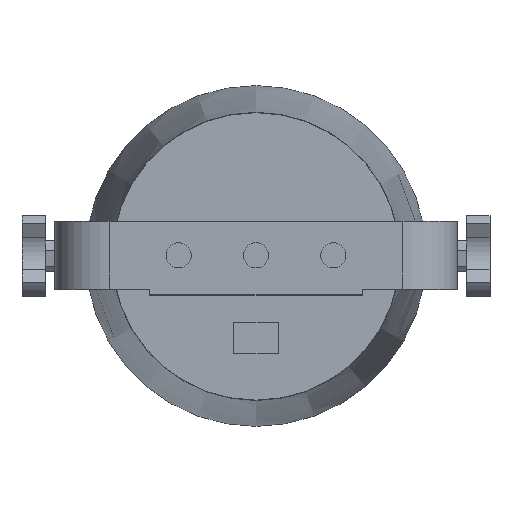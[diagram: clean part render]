
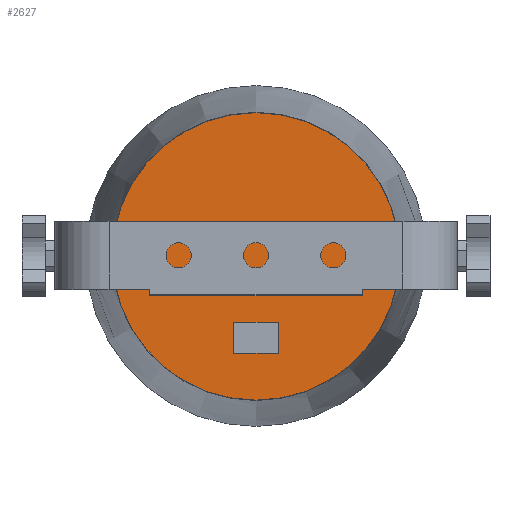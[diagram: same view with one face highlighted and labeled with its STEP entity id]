
A CAD part, top view. The second image highlights one B-rep face of the part: STEP entity #2627.
In plain terms, the highlighted planar face has unit normal (0, -0.003, 1).
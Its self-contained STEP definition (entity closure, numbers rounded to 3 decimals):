
#79=FACE_BOUND('',#504,.T.);
#177=CIRCLE('',#2887,74.315);
#178=CIRCLE('',#2888,74.315);
#352=FACE_OUTER_BOUND('',#503,.T.);
#503=EDGE_LOOP('',(#2383,#2384));
#504=EDGE_LOOP('',(#2385,#2386,#2387,#2388));
#698=LINE('',#4169,#950);
#702=LINE('',#4177,#954);
#707=LINE('',#4187,#959);
#709=LINE('',#4190,#961);
#950=VECTOR('',#3430,10.);
#954=VECTOR('',#3436,10.);
#959=VECTOR('',#3445,10.);
#961=VECTOR('',#3449,10.);
#1191=VERTEX_POINT('',#4167);
#1192=VERTEX_POINT('',#4168);
#1195=VERTEX_POINT('',#4176);
#1198=VERTEX_POINT('',#4186);
#1264=VERTEX_POINT('',#4596);
#1265=VERTEX_POINT('',#4597);
#1533=EDGE_CURVE('',#1191,#1192,#698,.T.);
#1537=EDGE_CURVE('',#1195,#1191,#702,.T.);
#1542=EDGE_CURVE('',#1192,#1198,#707,.T.);
#1544=EDGE_CURVE('',#1198,#1195,#709,.T.);
#1641=EDGE_CURVE('',#1264,#1265,#177,.T.);
#1642=EDGE_CURVE('',#1265,#1264,#178,.T.);
#2383=ORIENTED_EDGE('',*,*,#1641,.T.);
#2384=ORIENTED_EDGE('',*,*,#1642,.T.);
#2385=ORIENTED_EDGE('',*,*,#1537,.T.);
#2386=ORIENTED_EDGE('',*,*,#1533,.T.);
#2387=ORIENTED_EDGE('',*,*,#1542,.T.);
#2388=ORIENTED_EDGE('',*,*,#1544,.T.);
#2493=PLANE('',#2886);
#2627=ADVANCED_FACE('',(#352,#79),#2493,.T.);
#2886=AXIS2_PLACEMENT_3D('',#4595,#3607,#3608);
#2887=AXIS2_PLACEMENT_3D('',#4598,#3609,#3610);
#2888=AXIS2_PLACEMENT_3D('',#4599,#3611,#3612);
#3430=DIRECTION('',(0.,1.,0.));
#3436=DIRECTION('',(-1.,0.,0.));
#3445=DIRECTION('',(1.,0.,0.));
#3449=DIRECTION('',(0.,-1.,0.));
#3607=DIRECTION('center_axis',(0.,0.,1.));
#3608=DIRECTION('ref_axis',(1.,0.,0.));
#3609=DIRECTION('center_axis',(0.,0.,1.));
#3610=DIRECTION('ref_axis',(1.,0.,0.));
#3611=DIRECTION('center_axis',(0.,0.,1.));
#3612=DIRECTION('ref_axis',(1.,0.,0.));
#4167=CARTESIAN_POINT('',(-11.5,-50.,151.5));
#4168=CARTESIAN_POINT('',(-11.5,-34.,151.5));
#4169=CARTESIAN_POINT('',(-11.5,-17.5,151.5));
#4176=CARTESIAN_POINT('',(11.5,-50.,151.5));
#4177=CARTESIAN_POINT('',(-5.25,-50.,151.5));
#4186=CARTESIAN_POINT('',(11.5,-34.,151.5));
#4187=CARTESIAN_POINT('',(5.25,-34.,151.5));
#4190=CARTESIAN_POINT('',(11.5,-24.5,151.5));
#4595=CARTESIAN_POINT('Origin',(0.,0.,151.5));
#4596=CARTESIAN_POINT('',(0.,-74.315,151.5));
#4597=CARTESIAN_POINT('',(0.,74.315,151.5));
#4598=CARTESIAN_POINT('Origin',(0.,0.,151.5));
#4599=CARTESIAN_POINT('Origin',(0.,0.,151.5));
